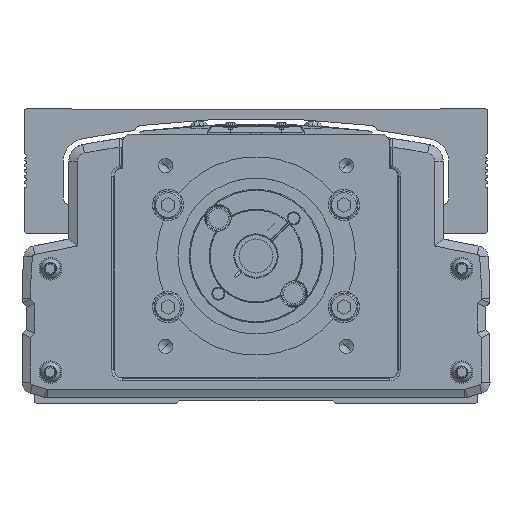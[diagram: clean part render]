
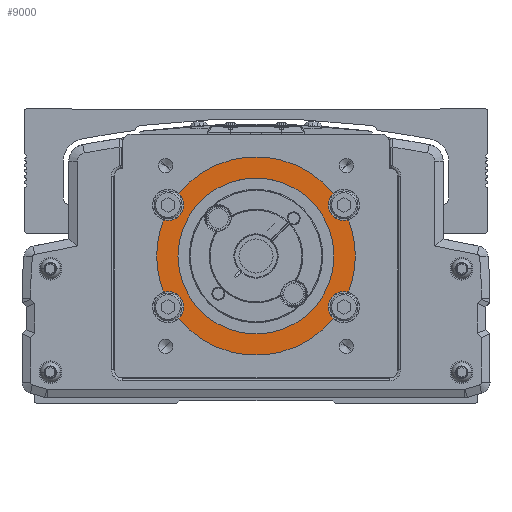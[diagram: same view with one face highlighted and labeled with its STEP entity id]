
A CAD part, front view. The second image highlights one B-rep face of the part: STEP entity #9000.
In plain terms, the highlighted planar face has unit normal (0, -1, 0).
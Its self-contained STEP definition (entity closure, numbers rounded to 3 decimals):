
#9000=ADVANCED_FACE('',(#18197,#18198),#18199,.F.);
#18197=FACE_OUTER_BOUND('',#30676,.T.);
#18198=FACE_BOUND('',#30677,.T.);
#18199=PLANE('',#30678);
#30676=EDGE_LOOP('',(#56430,#56431,#56432,#56433,#56434,#56435,#56436,#56437,#56438,#56439,#56440,#56441,#56442,#56443));
#30677=EDGE_LOOP('',(#56444,#56445));
#30678=AXIS2_PLACEMENT_3D('',#56446,#56447,#56448);
#56430=ORIENTED_EDGE('',*,*,#59034,.F.);
#56431=ORIENTED_EDGE('',*,*,#68059,.T.);
#56432=ORIENTED_EDGE('',*,*,#65037,.T.);
#56433=ORIENTED_EDGE('',*,*,#68144,.F.);
#56434=ORIENTED_EDGE('',*,*,#61713,.F.);
#56435=ORIENTED_EDGE('',*,*,#68210,.T.);
#56436=ORIENTED_EDGE('',*,*,#68388,.F.);
#56437=ORIENTED_EDGE('',*,*,#68586,.F.);
#56438=ORIENTED_EDGE('',*,*,#67782,.T.);
#56439=ORIENTED_EDGE('',*,*,#60140,.T.);
#56440=ORIENTED_EDGE('',*,*,#67151,.F.);
#56441=ORIENTED_EDGE('',*,*,#68606,.F.);
#56442=ORIENTED_EDGE('',*,*,#67172,.T.);
#56443=ORIENTED_EDGE('',*,*,#68339,.F.);
#56444=ORIENTED_EDGE('',*,*,#68076,.F.);
#56445=ORIENTED_EDGE('',*,*,#61239,.F.);
#56446=CARTESIAN_POINT('',(-600.,103.222,0.));
#56447=DIRECTION('',(0.,1.0,0.));
#56448=DIRECTION('',(-1.0,0.,0.));
#59034=EDGE_CURVE('',#70198,#70200,#70201,.T.);
#60140=EDGE_CURVE('',#72151,#72155,#72157,.T.);
#61239=EDGE_CURVE('',#74010,#74012,#74013,.T.);
#61713=EDGE_CURVE('',#74802,#74804,#74805,.T.);
#65037=EDGE_CURVE('',#79839,#79844,#79846,.T.);
#67151=EDGE_CURVE('',#82577,#72155,#82579,.T.);
#67172=EDGE_CURVE('',#82605,#82603,#82606,.T.);
#67782=EDGE_CURVE('',#83301,#72151,#83302,.T.);
#68059=EDGE_CURVE('',#70198,#79839,#83605,.T.);
#68076=EDGE_CURVE('',#74012,#74010,#83624,.T.);
#68144=EDGE_CURVE('',#74804,#79844,#83698,.T.);
#68210=EDGE_CURVE('',#74802,#83768,#83770,.T.);
#68339=EDGE_CURVE('',#70200,#82603,#83903,.T.);
#68388=EDGE_CURVE('',#83956,#83768,#83958,.T.);
#68586=EDGE_CURVE('',#83301,#83956,#84159,.T.);
#68606=EDGE_CURVE('',#82605,#82577,#84179,.T.);
#70198=VERTEX_POINT('',#86274);
#70200=VERTEX_POINT('',#86277);
#70201=CIRCLE('',#86278,5.5);
#72151=VERTEX_POINT('',#89071);
#72155=VERTEX_POINT('',#89076);
#72157=CIRCLE('',#89079,35.0);
#74010=VERTEX_POINT('',#91762);
#74012=VERTEX_POINT('',#91765);
#74013=CIRCLE('',#91766,27.5);
#74802=VERTEX_POINT('',#92874);
#74804=VERTEX_POINT('',#92877);
#74805=CIRCLE('',#92878,5.5);
#79839=VERTEX_POINT('',#100244);
#79844=VERTEX_POINT('',#100250);
#79846=CIRCLE('',#100253,35.0);
#82577=VERTEX_POINT('',#104403);
#82579=CIRCLE('',#104406,5.5);
#82603=VERTEX_POINT('',#104438);
#82605=VERTEX_POINT('',#104441);
#82606=CIRCLE('',#104442,35.0);
#83301=VERTEX_POINT('',#105394);
#83302=CIRCLE('',#105395,35.0);
#83605=CIRCLE('',#105877,35.0);
#83624=CIRCLE('',#105899,27.5);
#83698=CIRCLE('',#106014,5.5);
#83768=VERTEX_POINT('',#106105);
#83770=CIRCLE('',#106108,35.0);
#83903=CIRCLE('',#106280,5.5);
#83956=VERTEX_POINT('',#106352);
#83958=CIRCLE('',#106355,5.5);
#84159=CIRCLE('',#106596,5.5);
#84179=CIRCLE('',#106618,5.5);
#86274=CARTESIAN_POINT('',(-632.6,103.222,12.738));
#86277=CARTESIAN_POINT('',(-625.5,103.222,18.));
#86278=AXIS2_PLACEMENT_3D('',#107992,#107993,#107994);
#89071=CARTESIAN_POINT('',(-565.,103.222,0.));
#89076=CARTESIAN_POINT('',(-567.4,103.222,12.738));
#89079=AXIS2_PLACEMENT_3D('',#109620,#109621,#109622);
#91762=CARTESIAN_POINT('',(-627.5,103.222,0.));
#91765=CARTESIAN_POINT('',(-572.5,103.222,0.));
#91766=AXIS2_PLACEMENT_3D('',#111051,#111052,#111053);
#92874=CARTESIAN_POINT('',(-627.223,103.222,-21.998));
#92877=CARTESIAN_POINT('',(-625.5,103.222,-18.));
#92878=AXIS2_PLACEMENT_3D('',#111774,#111775,#111776);
#100244=CARTESIAN_POINT('',(-635.,103.222,0.));
#100250=CARTESIAN_POINT('',(-632.6,103.222,-12.738));
#100253=AXIS2_PLACEMENT_3D('',#116151,#116152,#116153);
#104403=CARTESIAN_POINT('',(-574.5,103.222,18.));
#104406=AXIS2_PLACEMENT_3D('',#118752,#118753,#118754);
#104438=CARTESIAN_POINT('',(-627.223,103.222,21.998));
#104441=CARTESIAN_POINT('',(-572.777,103.222,21.998));
#104442=AXIS2_PLACEMENT_3D('',#118773,#118774,#118775);
#105394=CARTESIAN_POINT('',(-567.4,103.222,-12.738));
#105395=AXIS2_PLACEMENT_3D('',#119396,#119397,#119398);
#105877=AXIS2_PLACEMENT_3D('',#119634,#119635,#119636);
#105899=AXIS2_PLACEMENT_3D('',#119652,#119653,#119654);
#106014=AXIS2_PLACEMENT_3D('',#119709,#119710,#119711);
#106105=CARTESIAN_POINT('',(-572.777,103.222,-21.998));
#106108=AXIS2_PLACEMENT_3D('',#119773,#119774,#119775);
#106280=AXIS2_PLACEMENT_3D('',#119864,#119865,#119866);
#106352=CARTESIAN_POINT('',(-574.5,103.222,-18.));
#106355=AXIS2_PLACEMENT_3D('',#119916,#119917,#119918);
#106596=AXIS2_PLACEMENT_3D('',#120004,#120005,#120006);
#106618=AXIS2_PLACEMENT_3D('',#120015,#120016,#120017);
#107992=CARTESIAN_POINT('',(-631.,103.222,18.));
#107993=DIRECTION('',(0.,-1.0,0.));
#107994=DIRECTION('',(-1.0,0.,0.));
#109620=CARTESIAN_POINT('',(-600.,103.222,0.));
#109621=DIRECTION('',(0.,-1.0,0.));
#109622=DIRECTION('',(-1.0,0.,0.));
#111051=CARTESIAN_POINT('',(-600.,103.222,0.));
#111052=DIRECTION('',(0.,-1.0,0.));
#111053=DIRECTION('',(-1.0,0.,0.));
#111774=CARTESIAN_POINT('',(-631.,103.222,-18.));
#111775=DIRECTION('',(0.,-1.0,0.));
#111776=DIRECTION('',(-1.0,0.,0.));
#116151=CARTESIAN_POINT('',(-600.,103.222,0.));
#116152=DIRECTION('',(0.,-1.0,0.));
#116153=DIRECTION('',(-1.0,0.,0.));
#118752=CARTESIAN_POINT('',(-569.,103.222,18.));
#118753=DIRECTION('',(0.,-1.0,0.));
#118754=DIRECTION('',(1.0,0.,0.));
#118773=CARTESIAN_POINT('',(-600.,103.222,0.));
#118774=DIRECTION('',(0.,-1.0,0.));
#118775=DIRECTION('',(-1.0,0.,0.));
#119396=CARTESIAN_POINT('',(-600.,103.222,0.));
#119397=DIRECTION('',(0.,-1.0,0.));
#119398=DIRECTION('',(-1.0,0.,0.));
#119634=CARTESIAN_POINT('',(-600.,103.222,0.));
#119635=DIRECTION('',(0.,-1.0,0.));
#119636=DIRECTION('',(-1.0,0.,0.));
#119652=CARTESIAN_POINT('',(-600.,103.222,0.));
#119653=DIRECTION('',(0.,-1.0,0.));
#119654=DIRECTION('',(-1.0,0.,0.));
#119709=CARTESIAN_POINT('',(-631.,103.222,-18.));
#119710=DIRECTION('',(0.,-1.0,0.));
#119711=DIRECTION('',(-1.0,0.,0.));
#119773=CARTESIAN_POINT('',(-600.,103.222,0.));
#119774=DIRECTION('',(0.,-1.0,0.));
#119775=DIRECTION('',(-1.0,0.,0.));
#119864=CARTESIAN_POINT('',(-631.,103.222,18.));
#119865=DIRECTION('',(0.,-1.0,0.));
#119866=DIRECTION('',(-1.0,0.,0.));
#119916=CARTESIAN_POINT('',(-569.,103.222,-18.));
#119917=DIRECTION('',(0.,-1.0,0.));
#119918=DIRECTION('',(1.0,0.,0.));
#120004=CARTESIAN_POINT('',(-569.,103.222,-18.));
#120005=DIRECTION('',(0.,-1.0,0.));
#120006=DIRECTION('',(1.0,0.,0.));
#120015=CARTESIAN_POINT('',(-569.,103.222,18.));
#120016=DIRECTION('',(0.,-1.0,0.));
#120017=DIRECTION('',(1.0,0.,0.));
